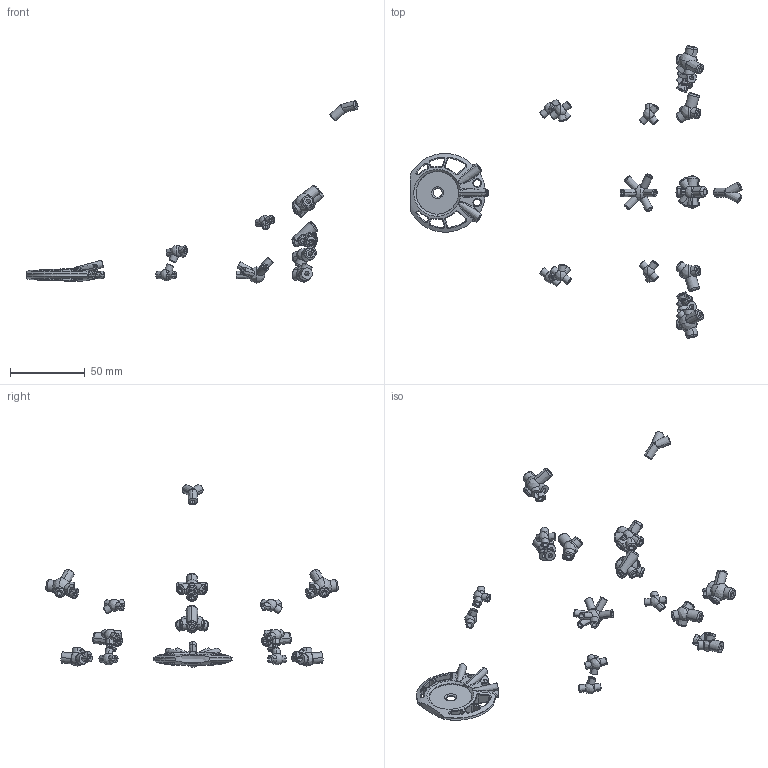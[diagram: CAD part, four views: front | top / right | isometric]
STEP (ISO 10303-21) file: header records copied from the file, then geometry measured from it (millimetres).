
FILE_DESCRIPTION(/* description */ (''),/* implementation_level */ '2;1');
FILE_NAME(/* name */ 'EnhancedSet_MotorSuspension',/* time_stamp */ '2017-06-28T07:03:39+02:00',/* author */ (''),/* organization */ (''),/* preprocessor_version */ 'ST-DEVELOPER v15',/* originating_system */ '',/* authorisation */ '');
FILE_SCHEMA (('AUTOMOTIVE_DESIGN'));
Length unit declared in the file: millimetre
Products named in the file (1): Document
Bounding box: 222.41 x 195.78 x 122.14 mm (x, y, z)
Volume: 12035.2 mm3; surface area: 22058.9 mm2
Topology: 13 solids, 17 shells, 999 faces, 2510 edges, 1553 vertices
Faces by surface type: bspline 873, plane 126
Entity records: 70947 total; most frequent: CARTESIAN_POINT 57556, ORIENTED_EDGE 4908, EDGE_CURVE 2469, VERTEX_POINT 1553, EDGE_LOOP 1103, ADVANCED_FACE 999, FACE_OUTER_BOUND 999, B_SPLINE_CURVE_WITH_KNOTS 707
